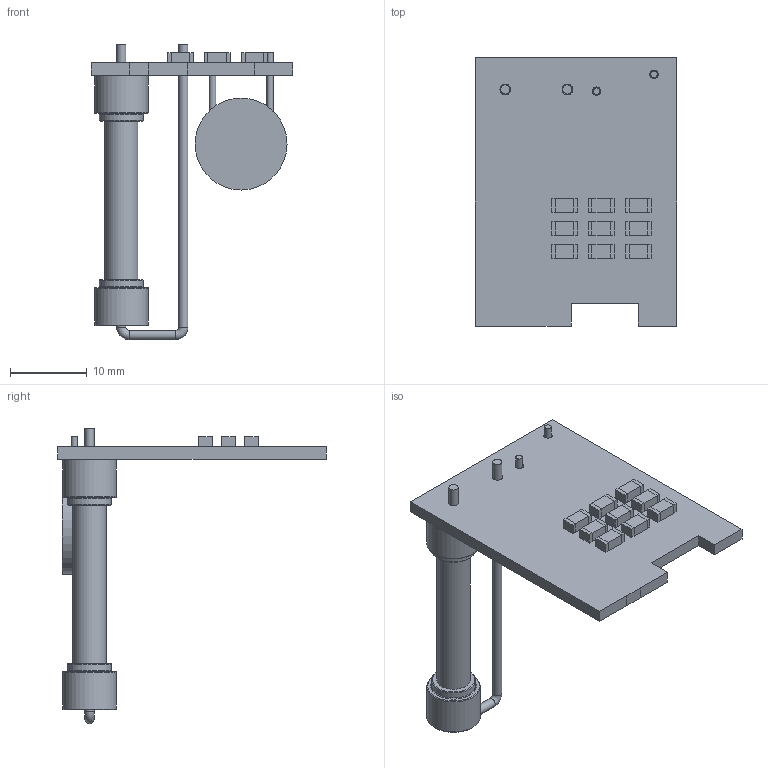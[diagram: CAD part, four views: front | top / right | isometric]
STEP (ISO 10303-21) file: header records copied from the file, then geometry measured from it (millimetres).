
FILE_DESCRIPTION(('Open CASCADE Model'),'2;1');
FILE_NAME('Open CASCADE Shape Model','2022-05-11T03:51:05',('Author'),( 'Open CASCADE'),'Open CASCADE STEP processor 6.8','Open CASCADE 6.8' ,'Unknown');
FILE_SCHEMA(('AUTOMOTIVE_DESIGN { 1 0 10303 214 1 1 1 1 }'));
Length unit declared in the file: millimetre
Products named in the file (26): PCB; Board; RV1; -1862647536; Cylinder; -1862668144; R9; 1703905928; Extruded; 1703906064; R8; R7; R6; R5; R4; R3; R2; R1; F1; Fuse_0525025.MXEP_vm_AXIAL; 1; 2; 3; Littelfuse
Assembly tree (51 placements, depth 4):
  PCB
    Board
    RV1
      -1862647536  x2
        Cylinder
      -1862668144
        Cylinder
    R9
      1703905928  x2
        Extruded
      1703906064
        Extruded
    R8
      1703905928  x2
        Extruded
      1703906064
        Extruded
    R7
      1703905928  x2
        Extruded
      1703906064
        Extruded
    R6
      1703905928  x2
        Extruded
      1703906064
        Extruded
    R5
      1703905928  x2
        Extruded
      1703906064
        Extruded
    R4
      1703905928  x2
        Extruded
      1703906064
        Extruded
    R3
      1703905928  x2
        Extruded
      1703906064
        Extruded
    R2
      1703905928  x2
        Extruded
      1703906064
        Extruded
    R1
      1703905928  x2
        Extruded
      1703906064
        Extruded
    F1
      Fuse_0525025.MXEP_vm_AXIAL
        1
        2
        3
        Littelfuse
Bounding box: 26.25 x 35 x 38.52 mm (x, y, z)
Volume: 2910.2 mm3; surface area: 3809.4 mm2
Topology: 50 solids, 50 shells, 423 faces, 963 edges, 642 vertices
Faces by surface type: plane 351, bspline 40, cylinder 18, torus 14
Full cylindrical faces by diameter (mm): 0.85 x2, 1.1 x2, 1.2 x6, 1.4 x2, 4.341 x1, 5.73 x2, 6.985 x2, 12 x1
Entity records: 9029 total; most frequent: CARTESIAN_POINT 2030, ORIENTED_EDGE 1320, DIRECTION 1220, EDGE_CURVE 660, LINE 504, VECTOR 504, VERTEX_POINT 440, AXIS2_PLACEMENT_3D 358
